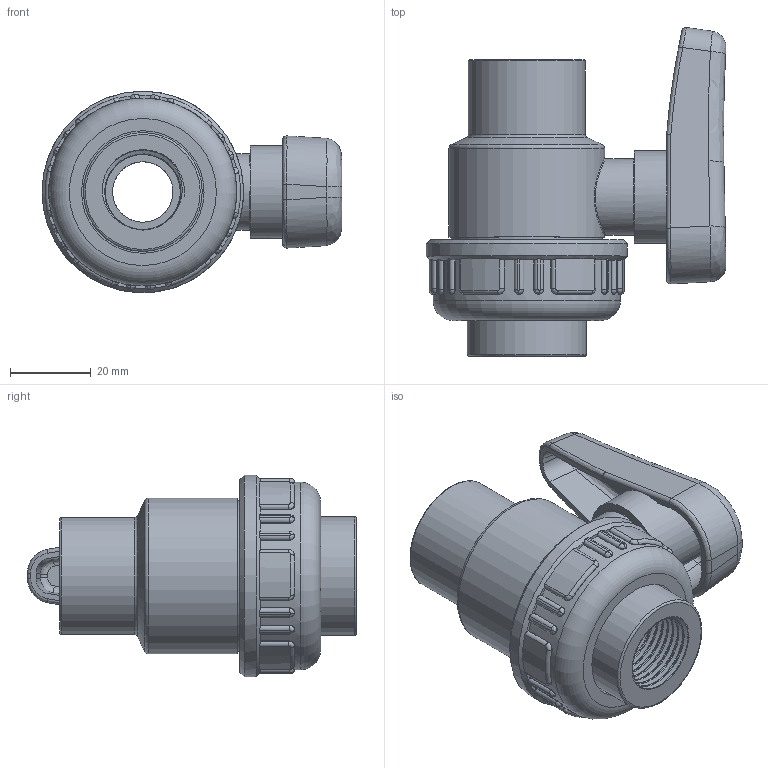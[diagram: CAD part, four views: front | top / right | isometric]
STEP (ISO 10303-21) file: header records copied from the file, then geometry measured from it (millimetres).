
FILE_DESCRIPTION(/* description */ (''),/* implementation_level */ '2;1');
FILE_NAME(/* name */ 'C:\Users\POLYPIPE\Desktop\DATASET INVENTOR\LIBRERIA EFFAST\3D_VALVOLE\3D_VALVOLE A SFERA\3D_SV\3D_BERSVE\3D_BERSVE020B.stp',/* time_stamp */ '2018-01-24T14:46:14+01:00',/* author */ ('POLYPIPE'),/* organization */ (''),/* preprocessor_version */ 'ST-DEVELOPER v16.1',/* originating_system */ 'Autodesk Inventor 2016',/* authorisation */ '');
FILE_SCHEMA (('CONFIG_CONTROL_DESIGN'));
Length unit declared in the file: centimetre
Products named in the file (1): 3D_BERSVE020B
Bounding box: 74.42 x 81.61 x 50 mm (x, y, z)
Volume: 75917.4 mm3; surface area: 31517.5 mm2
Topology: 2 solids, 2 shells, 360 faces, 912 edges, 564 vertices
Faces by surface type: cylinder 116, bspline 109, plane 105, torus 19, sphere 8, cone 3
Full cylindrical faces by diameter (mm): 12 x1, 15 x2, 18.631 x2, 19 x1, 23 x1, 29 x1, 29.5 x1, 30.4 x1, 35.5 x1, 37.5 x1, 38.6 x1, 40.4 x1, 46.5 x1, 50 x1
Entity records: 39678 total; most frequent: CARTESIAN_POINT 31268, ORIENTED_EDGE 1758, DIRECTION 1505, EDGE_CURVE 879, AXIS2_PLACEMENT_3D 592, VERTEX_POINT 555, EDGE_LOOP 398, STYLED_ITEM 362
